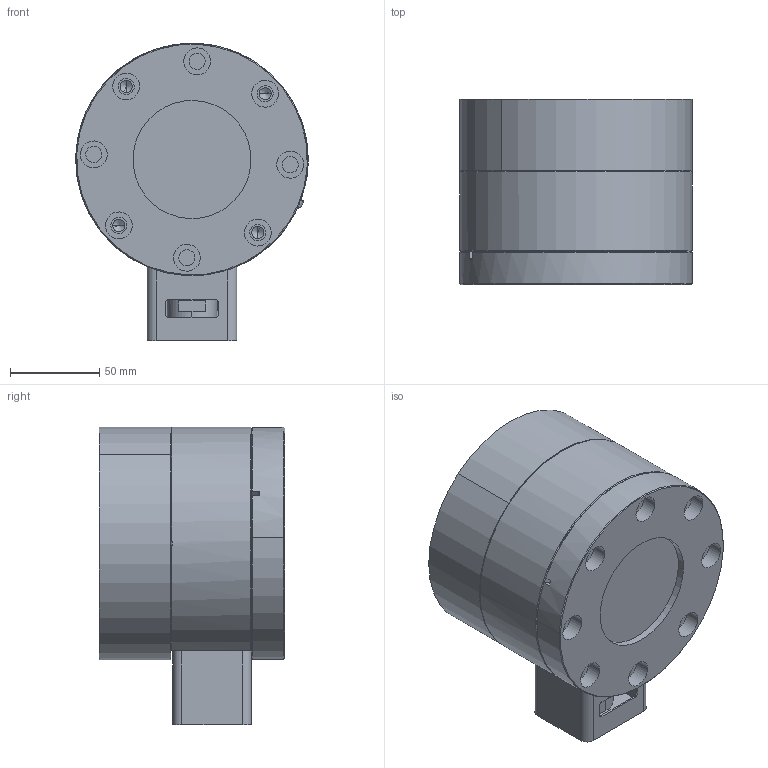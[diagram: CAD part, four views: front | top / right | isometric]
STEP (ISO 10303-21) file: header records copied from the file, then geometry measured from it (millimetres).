
FILE_DESCRIPTION (( 'STEP AP214' ), '1' );
FILE_NAME ('JK063-G-A-V-K-E.STEP', '2020-08-24T06:08:06', ( '' ), ( '' ), 'SwSTEP 2.0', 'SolidWorks 2018', '' );
FILE_SCHEMA (( 'AUTOMOTIVE_DESIGN' ));
Length unit declared in the file: millimetre
Products named in the file (18): JK063-78A-E; 28BYJ-48-5V; COM-001-M6-35_ル遽; JK063-02B; P10-A; COM-001-M5-15_ル遽; JK063-74B-E; COM-002-M4-5L; JK063-071A; JK063-700A-E_ル遽; JK063-03E-K-T; AS568-235; JK063-73B-E; JK063-01D; JK063-04A; JK063-70B-E; JK063-G-A-V-K-E; JK063-99A
Assembly tree (22 placements, depth 3):
  JK063-G-A-V-K-E
    JK063-99A
    JK063-700A-E_ル遽
      JK063-70B-E
      JK063-73B-E
      JK063-071A
      JK063-74B-E
      COM-001-M5-15_ル遽
      AS568-235
      P10-A  x2
      COM-001-M6-35_ル遽  x4
      28BYJ-48-5V
      JK063-78A-E
    JK063-03E-K-T
    JK063-04A
    JK063-01D
    JK063-02B
    COM-002-M4-5L  x2
Bounding box: 130 x 103.5 x 166.3 mm (x, y, z)
Volume: 1051388.8 mm3; surface area: 211264.4 mm2
Topology: 21 solids, 21 shells, 612 faces, 1449 edges, 888 vertices
Faces by surface type: cylinder 247, plane 185, cone 113, torus 67
Entity records: 17419 total; most frequent: CARTESIAN_POINT 3346, DIRECTION 2922, ORIENTED_EDGE 2478, EDGE_CURVE 1239, AXIS2_PLACEMENT_3D 1201, VERTEX_POINT 792, EDGE_LOOP 671, CIRCLE 636
